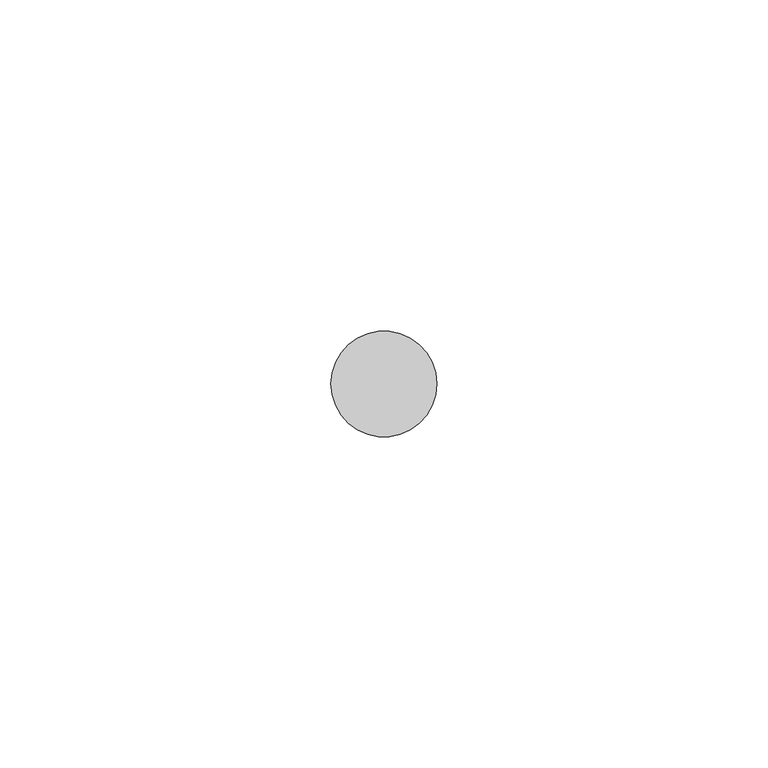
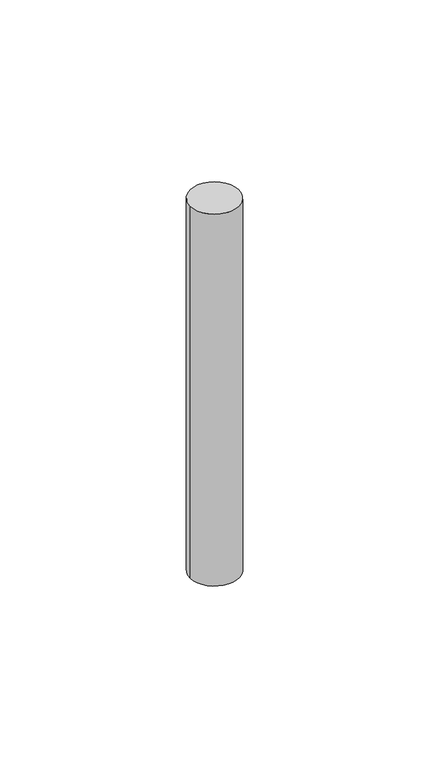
"""IFC4 building model written with IfcOpenShell, lengths in millimetres: pipe fitting geometry, СТ_Вл-3D_Подсчет_Шпилька : СТ_Вл-3D_Подсчет_Шпилька."""

from ifc_helpers import new_model, si_unit, point, origin, origin_with_axes, origin_2d, place, context, project, spatial, circle_curve, trimmed, segment, composite_curve, outline, extrude, source, transform, mapped, element, save


def pipe_fitting_b7a03728(model_context):
    return source(origin(), model_context, "Body", "SweptSolid", [
        extrude(outline(composite_curve([segment(trimmed(circle_curve(origin_2d(), 8.0), [point((-8.0, 0.0))], [point((8.0, 0.0))], False, "CARTESIAN"), True, "CONTINUOUS"), segment(trimmed(circle_curve(origin_2d(), 8.0), [point((8.0, 0.0))], [point((-8.0, 0.0))], False, "CARTESIAN"), True, "CONTINUOUS")], self_intersect=False)), origin_with_axes(), (0.0, 0.0, 1.0), 129.0114805),
    ])


if __name__ == "__main__":
    model = new_model("IFC4")
    model_context = context("Model", 3, world=origin())
    ifc_project = project(units=[si_unit("LENGTHUNIT", "METRE", prefix="MILLI")], contexts=[model_context])
    site = spatial("IfcSite", under=ifc_project)
    building = spatial("IfcBuilding", under=site)
    placement = place(None, origin())
    pipe_fitting_shape = pipe_fitting_b7a03728(model_context)
    element("IfcPipeFitting", 1, ObjectType="СТ_Вл-3D_Подсчет_Шпилька : СТ_Вл-3D_Подсчет_Шпилька", at=placement, inside=building, context=model_context, shape_type="MappedRepresentation", body=[
        mapped(pipe_fitting_shape, transform((0.0, 0.0, 0.0), x_axis=(1.0, 0.0, 0.0), y_axis=(0.0, 1.0, 0.0), z_axis=(0.0, 0.0, 1.0))),
    ])
    save(model, "model.ifc")
